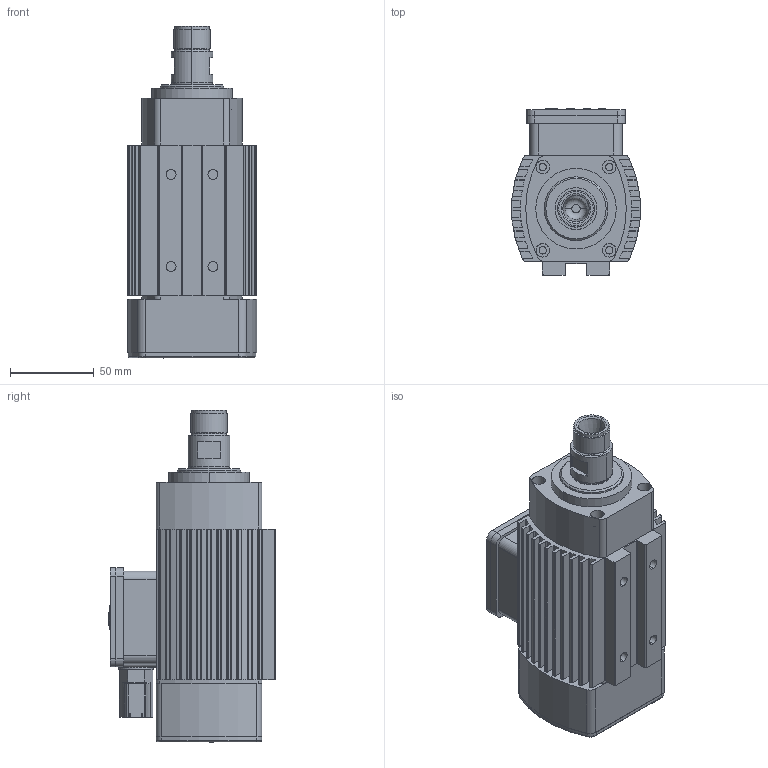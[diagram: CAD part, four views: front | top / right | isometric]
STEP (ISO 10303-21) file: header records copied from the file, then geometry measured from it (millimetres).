
FILE_DESCRIPTION (( 'STEP AP203' ), '1' );
FILE_NAME ('ARFM.1Y-S ER 16.STEP', '2019-11-27T13:23:33', ( '' ), ( '' ), 'SwSTEP 2.0', 'SolidWorks 2014', '' );
FILE_SCHEMA (( 'CONFIG_CONTROL_DESIGN' ));
Length unit declared in the file: millimetre
Products named in the file (11): arfm.1y arka kapak; Klemens Kutusu; arfm.1y klemens kutusu; arfm.1y rotor mili er 16; arfm.1y-s gövde; arfm.1y pensli 霵 kapak; arfm.1y hava kapak; ARFM.1Y-S ER 16; pg 9 týrnaklý; arfm.1y pensli 霵 toz kapak; arfm.1y klemens kutusu kapaðý
Assembly tree (10 placements, depth 3):
  ARFM.1Y-S ER 16
    arfm.1y-s gövde
    arfm.1y arka kapak
    arfm.1y pensli 霵 kapak
    arfm.1y pensli 霵 toz kapak
    arfm.1y rotor mili er 16
    Klemens Kutusu
      arfm.1y klemens kutusu
      arfm.1y klemens kutusu kapaðý
      pg 9 týrnaklý
    arfm.1y hava kapak
Bounding box: 77 x 99.3 x 198 mm (x, y, z)
Volume: 772911.8 mm3; surface area: 130648 mm2
Topology: 9 solids, 9 shells, 600 faces, 1609 edges, 1064 vertices
Faces by surface type: cylinder 298, plane 269, torus 18, bspline 11, cone 4
Entity records: 20668 total; most frequent: CARTESIAN_POINT 3886, DIRECTION 3393, ORIENTED_EDGE 3218, EDGE_CURVE 1609, AXIS2_PLACEMENT_3D 1227, VERTEX_POINT 1064, LINE 939, VECTOR 939
